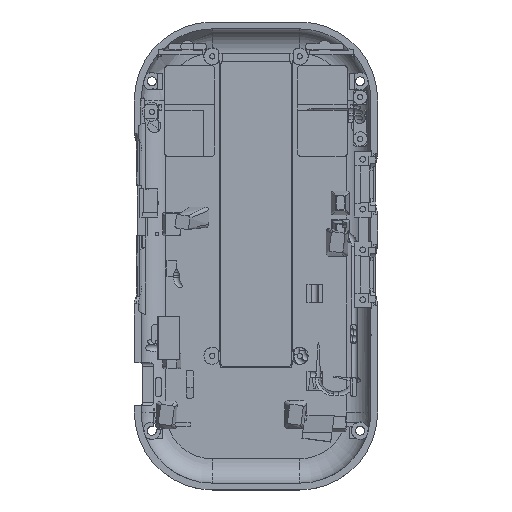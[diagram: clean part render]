
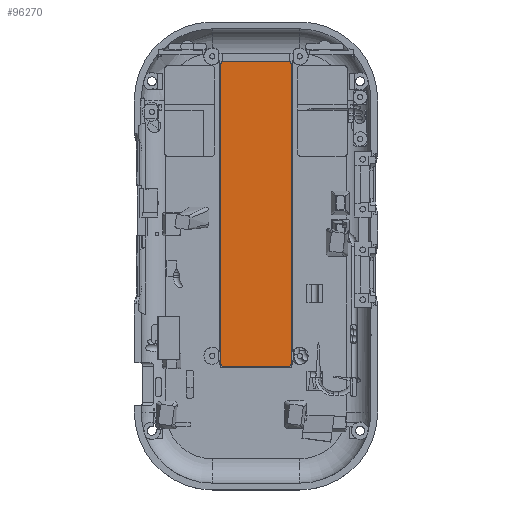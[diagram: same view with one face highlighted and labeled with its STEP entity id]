
A CAD part, top view. The second image highlights one B-rep face of the part: STEP entity #96270.
In plain terms, the highlighted planar face has unit normal (0, 0, 1).
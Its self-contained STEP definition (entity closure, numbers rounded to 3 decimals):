
#7938 = CYLINDRICAL_SURFACE('',#7939,1.);
#7939 = AXIS2_PLACEMENT_3D('',#7940,#7941,#7942);
#7940 = CARTESIAN_POINT('',(-10.25,-34.5,-22.1));
#7941 = DIRECTION('',(-0.,-0.,-1.));
#7942 = DIRECTION('',(1.,0.,0.));
#8153 = CYLINDRICAL_SURFACE('',#8154,1.);
#8154 = AXIS2_PLACEMENT_3D('',#8155,#8156,#8157);
#8155 = CARTESIAN_POINT('',(10.25,-34.5,-22.1));
#8156 = DIRECTION('',(-0.,-0.,-1.));
#8157 = DIRECTION('',(1.,0.,0.));
#23844 = PLANE('',#23845);
#23845 = AXIS2_PLACEMENT_3D('',#23846,#23847,#23848);
#23846 = CARTESIAN_POINT('',(-11.25,-34.5,-22.1));
#23847 = DIRECTION('',(-1.,0.,0.));
#23848 = DIRECTION('',(0.,1.,0.));
#23877 = CYLINDRICAL_SURFACE('',#23878,1.);
#23878 = AXIS2_PLACEMENT_3D('',#23879,#23880,#23881);
#23879 = CARTESIAN_POINT('',(-10.25,61.5,-22.1));
#23880 = DIRECTION('',(-0.,-0.,-1.));
#23881 = DIRECTION('',(1.,0.,0.));
#54500 = CYLINDRICAL_SURFACE('',#54501,1.);
#54501 = AXIS2_PLACEMENT_3D('',#54502,#54503,#54504);
#54502 = CARTESIAN_POINT('',(10.25,61.5,-22.1));
#54503 = DIRECTION('',(-0.,-0.,-1.));
#54504 = DIRECTION('',(1.,0.,0.));
#54528 = PLANE('',#54529);
#54529 = AXIS2_PLACEMENT_3D('',#54530,#54531,#54532);
#54530 = CARTESIAN_POINT('',(11.25,-34.5,-22.1));
#54531 = DIRECTION('',(-1.,0.,0.));
#54532 = DIRECTION('',(0.,1.,0.));
#54736 = VERTEX_POINT('',#54737);
#54737 = CARTESIAN_POINT('',(10.25,-35.5,-22.1));
#54753 = PLANE('',#54754);
#54754 = AXIS2_PLACEMENT_3D('',#54755,#54756,#54757);
#54755 = CARTESIAN_POINT('',(-10.25,-35.5,-22.1));
#54756 = DIRECTION('',(0.,1.,0.));
#54757 = DIRECTION('',(1.,0.,0.));
#54765 = EDGE_CURVE('',#54736,#54766,#54768,.T.);
#54766 = VERTEX_POINT('',#54767);
#54767 = CARTESIAN_POINT('',(11.25,-34.5,-22.1));
#54768 = SURFACE_CURVE('',#54769,(#54774,#54781),.PCURVE_S1.);
#54769 = CIRCLE('',#54770,1.);
#54770 = AXIS2_PLACEMENT_3D('',#54771,#54772,#54773);
#54771 = CARTESIAN_POINT('',(10.25,-34.5,-22.1));
#54772 = DIRECTION('',(0.,0.,1.));
#54773 = DIRECTION('',(1.,0.,-0.));
#54774 = PCURVE('',#8153,#54775);
#54775 = DEFINITIONAL_REPRESENTATION('',(#54776),#54780);
#54776 = LINE('',#54777,#54778);
#54777 = CARTESIAN_POINT('',(6.283,0.));
#54778 = VECTOR('',#54779,1.);
#54779 = DIRECTION('',(-1.,0.));
#54780 = ( GEOMETRIC_REPRESENTATION_CONTEXT(2) 
PARAMETRIC_REPRESENTATION_CONTEXT() REPRESENTATION_CONTEXT('2D SPACE',''
  ) );
#54781 = PCURVE('',#54782,#54787);
#54782 = PLANE('',#54783);
#54783 = AXIS2_PLACEMENT_3D('',#54784,#54785,#54786);
#54784 = CARTESIAN_POINT('',(0.,13.5,-22.1));
#54785 = DIRECTION('',(0.,0.,1.));
#54786 = DIRECTION('',(1.,0.,-0.));
#54787 = DEFINITIONAL_REPRESENTATION('',(#54788),#54792);
#54788 = CIRCLE('',#54789,1.);
#54789 = AXIS2_PLACEMENT_2D('',#54790,#54791);
#54790 = CARTESIAN_POINT('',(10.25,-48.));
#54791 = DIRECTION('',(1.,0.));
#54792 = ( GEOMETRIC_REPRESENTATION_CONTEXT(2) 
PARAMETRIC_REPRESENTATION_CONTEXT() REPRESENTATION_CONTEXT('2D SPACE',''
  ) );
#54907 = VERTEX_POINT('',#54908);
#54908 = CARTESIAN_POINT('',(-11.25,-34.5,-22.1));
#54929 = EDGE_CURVE('',#54907,#54930,#54932,.T.);
#54930 = VERTEX_POINT('',#54931);
#54931 = CARTESIAN_POINT('',(-10.25,-35.5,-22.1));
#54932 = SURFACE_CURVE('',#54933,(#54938,#54945),.PCURVE_S1.);
#54933 = CIRCLE('',#54934,1.);
#54934 = AXIS2_PLACEMENT_3D('',#54935,#54936,#54937);
#54935 = CARTESIAN_POINT('',(-10.25,-34.5,-22.1));
#54936 = DIRECTION('',(0.,0.,1.));
#54937 = DIRECTION('',(1.,0.,-0.));
#54938 = PCURVE('',#7938,#54939);
#54939 = DEFINITIONAL_REPRESENTATION('',(#54940),#54944);
#54940 = LINE('',#54941,#54942);
#54941 = CARTESIAN_POINT('',(6.283,0.));
#54942 = VECTOR('',#54943,1.);
#54943 = DIRECTION('',(-1.,0.));
#54944 = ( GEOMETRIC_REPRESENTATION_CONTEXT(2) 
PARAMETRIC_REPRESENTATION_CONTEXT() REPRESENTATION_CONTEXT('2D SPACE',''
  ) );
#54945 = PCURVE('',#54782,#54946);
#54946 = DEFINITIONAL_REPRESENTATION('',(#54947),#54951);
#54947 = CIRCLE('',#54948,1.);
#54948 = AXIS2_PLACEMENT_2D('',#54949,#54950);
#54949 = CARTESIAN_POINT('',(-10.25,-48.));
#54950 = DIRECTION('',(1.,0.));
#54951 = ( GEOMETRIC_REPRESENTATION_CONTEXT(2) 
PARAMETRIC_REPRESENTATION_CONTEXT() REPRESENTATION_CONTEXT('2D SPACE',''
  ) );
#57302 = PLANE('',#57303);
#57303 = AXIS2_PLACEMENT_3D('',#57304,#57305,#57306);
#57304 = CARTESIAN_POINT('',(-10.25,62.5,-22.1));
#57305 = DIRECTION('',(0.,1.,0.));
#57306 = DIRECTION('',(1.,0.,0.));
#72598 = EDGE_CURVE('',#54907,#72599,#72601,.T.);
#72599 = VERTEX_POINT('',#72600);
#72600 = CARTESIAN_POINT('',(-11.25,61.5,-22.1));
#72601 = SURFACE_CURVE('',#72602,(#72606,#72613),.PCURVE_S1.);
#72602 = LINE('',#72603,#72604);
#72603 = CARTESIAN_POINT('',(-11.25,13.5,-22.1));
#72604 = VECTOR('',#72605,1.);
#72605 = DIRECTION('',(0.,1.,0.));
#72606 = PCURVE('',#23844,#72607);
#72607 = DEFINITIONAL_REPRESENTATION('',(#72608),#72612);
#72608 = LINE('',#72609,#72610);
#72609 = CARTESIAN_POINT('',(48.,0.));
#72610 = VECTOR('',#72611,1.);
#72611 = DIRECTION('',(1.,0.));
#72612 = ( GEOMETRIC_REPRESENTATION_CONTEXT(2) 
PARAMETRIC_REPRESENTATION_CONTEXT() REPRESENTATION_CONTEXT('2D SPACE',''
  ) );
#72613 = PCURVE('',#54782,#72614);
#72614 = DEFINITIONAL_REPRESENTATION('',(#72615),#72619);
#72615 = LINE('',#72616,#72617);
#72616 = CARTESIAN_POINT('',(-11.25,0.));
#72617 = VECTOR('',#72618,1.);
#72618 = DIRECTION('',(0.,1.));
#72619 = ( GEOMETRIC_REPRESENTATION_CONTEXT(2) 
PARAMETRIC_REPRESENTATION_CONTEXT() REPRESENTATION_CONTEXT('2D SPACE',''
  ) );
#72648 = VERTEX_POINT('',#72649);
#72649 = CARTESIAN_POINT('',(-10.25,62.5,-22.1));
#72670 = EDGE_CURVE('',#72648,#72599,#72671,.T.);
#72671 = SURFACE_CURVE('',#72672,(#72677,#72684),.PCURVE_S1.);
#72672 = CIRCLE('',#72673,1.);
#72673 = AXIS2_PLACEMENT_3D('',#72674,#72675,#72676);
#72674 = CARTESIAN_POINT('',(-10.25,61.5,-22.1));
#72675 = DIRECTION('',(0.,0.,1.));
#72676 = DIRECTION('',(1.,0.,-0.));
#72677 = PCURVE('',#23877,#72678);
#72678 = DEFINITIONAL_REPRESENTATION('',(#72679),#72683);
#72679 = LINE('',#72680,#72681);
#72680 = CARTESIAN_POINT('',(6.283,0.));
#72681 = VECTOR('',#72682,1.);
#72682 = DIRECTION('',(-1.,0.));
#72683 = ( GEOMETRIC_REPRESENTATION_CONTEXT(2) 
PARAMETRIC_REPRESENTATION_CONTEXT() REPRESENTATION_CONTEXT('2D SPACE',''
  ) );
#72684 = PCURVE('',#54782,#72685);
#72685 = DEFINITIONAL_REPRESENTATION('',(#72686),#72690);
#72686 = CIRCLE('',#72687,1.);
#72687 = AXIS2_PLACEMENT_2D('',#72688,#72689);
#72688 = CARTESIAN_POINT('',(-10.25,48.));
#72689 = DIRECTION('',(1.,0.));
#72690 = ( GEOMETRIC_REPRESENTATION_CONTEXT(2) 
PARAMETRIC_REPRESENTATION_CONTEXT() REPRESENTATION_CONTEXT('2D SPACE',''
  ) );
#94971 = VERTEX_POINT('',#94972);
#94972 = CARTESIAN_POINT('',(11.25,61.5,-22.1));
#94993 = EDGE_CURVE('',#94971,#94994,#94996,.T.);
#94994 = VERTEX_POINT('',#94995);
#94995 = CARTESIAN_POINT('',(10.25,62.5,-22.1));
#94996 = SURFACE_CURVE('',#94997,(#95002,#95009),.PCURVE_S1.);
#94997 = CIRCLE('',#94998,1.);
#94998 = AXIS2_PLACEMENT_3D('',#94999,#95000,#95001);
#94999 = CARTESIAN_POINT('',(10.25,61.5,-22.1));
#95000 = DIRECTION('',(0.,0.,1.));
#95001 = DIRECTION('',(1.,0.,-0.));
#95002 = PCURVE('',#54500,#95003);
#95003 = DEFINITIONAL_REPRESENTATION('',(#95004),#95008);
#95004 = LINE('',#95005,#95006);
#95005 = CARTESIAN_POINT('',(6.283,0.));
#95006 = VECTOR('',#95007,1.);
#95007 = DIRECTION('',(-1.,0.));
#95008 = ( GEOMETRIC_REPRESENTATION_CONTEXT(2) 
PARAMETRIC_REPRESENTATION_CONTEXT() REPRESENTATION_CONTEXT('2D SPACE',''
  ) );
#95009 = PCURVE('',#54782,#95010);
#95010 = DEFINITIONAL_REPRESENTATION('',(#95011),#95015);
#95011 = CIRCLE('',#95012,1.);
#95012 = AXIS2_PLACEMENT_2D('',#95013,#95014);
#95013 = CARTESIAN_POINT('',(10.25,48.));
#95014 = DIRECTION('',(1.,0.));
#95015 = ( GEOMETRIC_REPRESENTATION_CONTEXT(2) 
PARAMETRIC_REPRESENTATION_CONTEXT() REPRESENTATION_CONTEXT('2D SPACE',''
  ) );
#95043 = EDGE_CURVE('',#54766,#94971,#95044,.T.);
#95044 = SURFACE_CURVE('',#95045,(#95049,#95056),.PCURVE_S1.);
#95045 = LINE('',#95046,#95047);
#95046 = CARTESIAN_POINT('',(11.25,13.5,-22.1));
#95047 = VECTOR('',#95048,1.);
#95048 = DIRECTION('',(0.,1.,0.));
#95049 = PCURVE('',#54528,#95050);
#95050 = DEFINITIONAL_REPRESENTATION('',(#95051),#95055);
#95051 = LINE('',#95052,#95053);
#95052 = CARTESIAN_POINT('',(48.,0.));
#95053 = VECTOR('',#95054,1.);
#95054 = DIRECTION('',(1.,0.));
#95055 = ( GEOMETRIC_REPRESENTATION_CONTEXT(2) 
PARAMETRIC_REPRESENTATION_CONTEXT() REPRESENTATION_CONTEXT('2D SPACE',''
  ) );
#95056 = PCURVE('',#54782,#95057);
#95057 = DEFINITIONAL_REPRESENTATION('',(#95058),#95062);
#95058 = LINE('',#95059,#95060);
#95059 = CARTESIAN_POINT('',(11.25,0.));
#95060 = VECTOR('',#95061,1.);
#95061 = DIRECTION('',(0.,1.));
#95062 = ( GEOMETRIC_REPRESENTATION_CONTEXT(2) 
PARAMETRIC_REPRESENTATION_CONTEXT() REPRESENTATION_CONTEXT('2D SPACE',''
  ) );
#96247 = EDGE_CURVE('',#54930,#54736,#96248,.T.);
#96248 = SURFACE_CURVE('',#96249,(#96253,#96260),.PCURVE_S1.);
#96249 = LINE('',#96250,#96251);
#96250 = CARTESIAN_POINT('',(0.,-35.5,-22.1));
#96251 = VECTOR('',#96252,1.);
#96252 = DIRECTION('',(1.,0.,0.));
#96253 = PCURVE('',#54753,#96254);
#96254 = DEFINITIONAL_REPRESENTATION('',(#96255),#96259);
#96255 = LINE('',#96256,#96257);
#96256 = CARTESIAN_POINT('',(10.25,0.));
#96257 = VECTOR('',#96258,1.);
#96258 = DIRECTION('',(1.,0.));
#96259 = ( GEOMETRIC_REPRESENTATION_CONTEXT(2) 
PARAMETRIC_REPRESENTATION_CONTEXT() REPRESENTATION_CONTEXT('2D SPACE',''
  ) );
#96260 = PCURVE('',#54782,#96261);
#96261 = DEFINITIONAL_REPRESENTATION('',(#96262),#96266);
#96262 = LINE('',#96263,#96264);
#96263 = CARTESIAN_POINT('',(0.,-49.));
#96264 = VECTOR('',#96265,1.);
#96265 = DIRECTION('',(1.,0.));
#96266 = ( GEOMETRIC_REPRESENTATION_CONTEXT(2) 
PARAMETRIC_REPRESENTATION_CONTEXT() REPRESENTATION_CONTEXT('2D SPACE',''
  ) );
#96270 = ADVANCED_FACE('',(#96271),#54782,.T.);
#96271 = FACE_BOUND('',#96272,.T.);
#96272 = EDGE_LOOP('',(#96273,#96274,#96275,#96276,#96277,#96278,#96279,
    #96300));
#96273 = ORIENTED_EDGE('',*,*,#72598,.F.);
#96274 = ORIENTED_EDGE('',*,*,#54929,.T.);
#96275 = ORIENTED_EDGE('',*,*,#96247,.T.);
#96276 = ORIENTED_EDGE('',*,*,#54765,.T.);
#96277 = ORIENTED_EDGE('',*,*,#95043,.T.);
#96278 = ORIENTED_EDGE('',*,*,#94993,.T.);
#96279 = ORIENTED_EDGE('',*,*,#96280,.F.);
#96280 = EDGE_CURVE('',#72648,#94994,#96281,.T.);
#96281 = SURFACE_CURVE('',#96282,(#96286,#96293),.PCURVE_S1.);
#96282 = LINE('',#96283,#96284);
#96283 = CARTESIAN_POINT('',(0.,62.5,-22.1));
#96284 = VECTOR('',#96285,1.);
#96285 = DIRECTION('',(1.,0.,0.));
#96286 = PCURVE('',#54782,#96287);
#96287 = DEFINITIONAL_REPRESENTATION('',(#96288),#96292);
#96288 = LINE('',#96289,#96290);
#96289 = CARTESIAN_POINT('',(0.,49.));
#96290 = VECTOR('',#96291,1.);
#96291 = DIRECTION('',(1.,0.));
#96292 = ( GEOMETRIC_REPRESENTATION_CONTEXT(2) 
PARAMETRIC_REPRESENTATION_CONTEXT() REPRESENTATION_CONTEXT('2D SPACE',''
  ) );
#96293 = PCURVE('',#57302,#96294);
#96294 = DEFINITIONAL_REPRESENTATION('',(#96295),#96299);
#96295 = LINE('',#96296,#96297);
#96296 = CARTESIAN_POINT('',(10.25,0.));
#96297 = VECTOR('',#96298,1.);
#96298 = DIRECTION('',(1.,0.));
#96299 = ( GEOMETRIC_REPRESENTATION_CONTEXT(2) 
PARAMETRIC_REPRESENTATION_CONTEXT() REPRESENTATION_CONTEXT('2D SPACE',''
  ) );
#96300 = ORIENTED_EDGE('',*,*,#72670,.T.);
